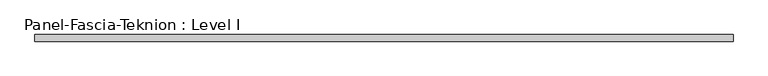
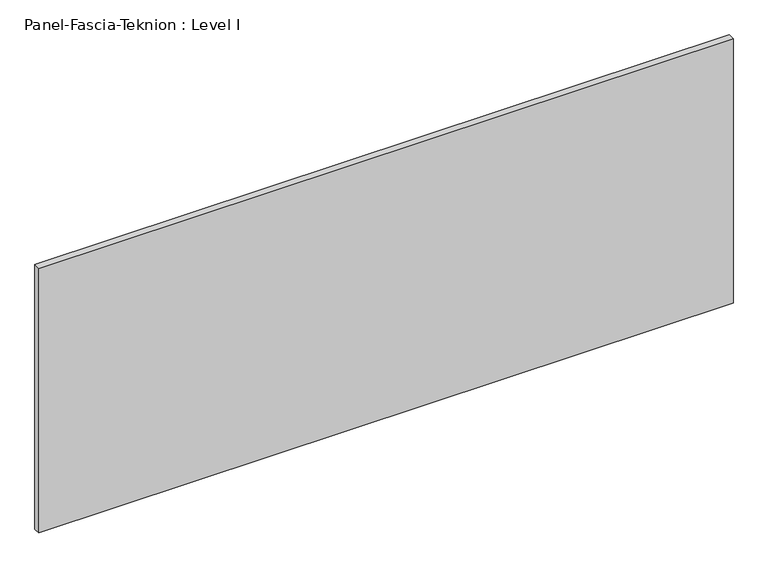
"""IFC4 building model written with IfcOpenShell, lengths in millimetres: proxy geometry, Panel-Fascia-Teknion : Level I."""

from ifc_helpers import new_model, si_unit, frame, origin, place, context, project, spatial, polyline, outline, extrude, source, transform, mapped, element, save


def panel_fascia_teknion_level_i_ec07af2e(model_context):
    return source(origin(), model_context, "Body", "SweptSolid", [
        extrude(outline(polyline([(1005.8356344, -9.525), (-1005.8356344, -9.525), (-1005.8356344, 9.525), (1005.8356344, 9.525), (1005.8356344, -9.525)])), frame((0.0, 0.0, 3.175), z_axis=(0.0, 0.0, 1.0), x_axis=(1.0, 0.0, 0.0)), (0.0, 0.0, 1.0), 810.768),
    ])


if __name__ == "__main__":
    model = new_model("IFC4")
    model_context = context("Model", 3, world=origin())
    ifc_project = project(units=[si_unit("LENGTHUNIT", "METRE", prefix="MILLI")], contexts=[model_context])
    site = spatial("IfcSite", under=ifc_project)
    building = spatial("IfcBuilding", under=site)
    placement = place(None, origin())
    panel_fascia_teknion_level_i_shape = panel_fascia_teknion_level_i_ec07af2e(model_context)
    element("IfcBuildingElementProxy", 1, Name="Panel-Fascia-Teknion : Level I", ObjectType="Panel-Fascia-Teknion : Level I", at=placement, inside=building, context=model_context, shape_type="MappedRepresentation", body=[
        mapped(panel_fascia_teknion_level_i_shape, transform((0.0, 0.0, 0.0), x_axis=(1.0, 0.0, 0.0), y_axis=(0.0, 1.0, 0.0), z_axis=(0.0, 0.0, 1.0))),
    ])
    save(model, "model.ifc")
